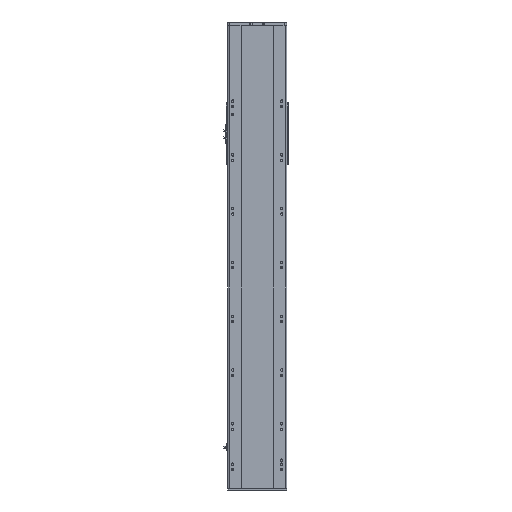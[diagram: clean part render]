
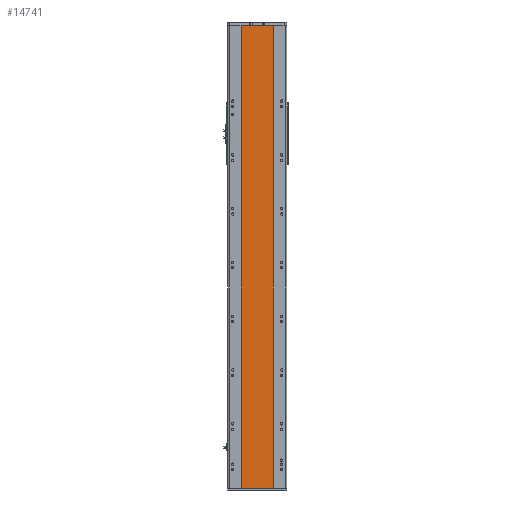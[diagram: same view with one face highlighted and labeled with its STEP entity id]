
A CAD part, front view. The second image highlights one B-rep face of the part: STEP entity #14741.
In plain terms, the highlighted planar face has unit normal (0, -1, 0).
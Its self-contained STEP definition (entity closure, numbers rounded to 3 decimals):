
#423 = VERTEX_POINT ( 'NONE', #30869 ) ;
#1004 = CARTESIAN_POINT ( 'NONE',  ( 59., 1., 860.5 ) ) ;
#2817 = DIRECTION ( 'NONE',  ( 1., 0., 0. ) ) ;
#4917 = EDGE_CURVE ( 'NONE', #14206, #27002, #26965, .T. ) ;
#6245 = CARTESIAN_POINT ( 'NONE',  ( -59., 1., -860.5 ) ) ;
#6989 = LINE ( 'NONE', #6245, #12631 ) ;
#7861 = FACE_OUTER_BOUND ( 'NONE', #35019, .T. ) ;
#8270 = DIRECTION ( 'NONE',  ( 0., 0., -1. ) ) ;
#8389 = CARTESIAN_POINT ( 'NONE',  ( -59., 1., 860.5 ) ) ;
#8584 = DIRECTION ( 'NONE',  ( 0., 1., 0. ) ) ;
#8833 = CARTESIAN_POINT ( 'NONE',  ( -59., 1., 860.5 ) ) ;
#10009 = VECTOR ( 'NONE', #31107, 1000. ) ;
#10474 = AXIS2_PLACEMENT_3D ( 'NONE', #8833, #8584, #20571 ) ;
#12631 = VECTOR ( 'NONE', #2817, 1000. ) ;
#13151 = ORIENTED_EDGE ( 'NONE', *, *, #25419, .T. ) ;
#14057 = VECTOR ( 'NONE', #8270, 1000. ) ;
#14206 = VERTEX_POINT ( 'NONE', #35675 ) ;
#14547 = LINE ( 'NONE', #8389, #14057 ) ;
#14741 = ADVANCED_FACE ( 'NONE', ( #7861 ), #20447, .F. ) ;
#15941 = ORIENTED_EDGE ( 'NONE', *, *, #27659, .F. ) ;
#16265 = LINE ( 'NONE', #23140, #31850 ) ;
#18250 = CARTESIAN_POINT ( 'NONE',  ( -59., 1., 860.5 ) ) ;
#18926 = ORIENTED_EDGE ( 'NONE', *, *, #19796, .T. ) ;
#19796 = EDGE_CURVE ( 'NONE', #21149, #423, #14547, .T. ) ;
#20447 = PLANE ( 'NONE',  #10474 ) ;
#20571 = DIRECTION ( 'NONE',  ( -1., 0., 0. ) ) ;
#21149 = VERTEX_POINT ( 'NONE', #18250 ) ;
#23140 = CARTESIAN_POINT ( 'NONE',  ( -59., 1., 860.5 ) ) ;
#25419 = EDGE_CURVE ( 'NONE', #423, #27002, #6989, .T. ) ;
#26431 = DIRECTION ( 'NONE',  ( 1., 0., 0. ) ) ;
#26965 = LINE ( 'NONE', #1004, #10009 ) ;
#27002 = VERTEX_POINT ( 'NONE', #33928 ) ;
#27659 = EDGE_CURVE ( 'NONE', #21149, #14206, #16265, .T. ) ;
#30869 = CARTESIAN_POINT ( 'NONE',  ( -59., 1., -860.5 ) ) ;
#31107 = DIRECTION ( 'NONE',  ( 0., 0., -1. ) ) ;
#31850 = VECTOR ( 'NONE', #26431, 1000. ) ;
#33928 = CARTESIAN_POINT ( 'NONE',  ( 59., 1., -860.5 ) ) ;
#35019 = EDGE_LOOP ( 'NONE', ( #13151, #35233, #15941, #18926 ) ) ;
#35233 = ORIENTED_EDGE ( 'NONE', *, *, #4917, .F. ) ;
#35675 = CARTESIAN_POINT ( 'NONE',  ( 59., 1., 860.5 ) ) ;
